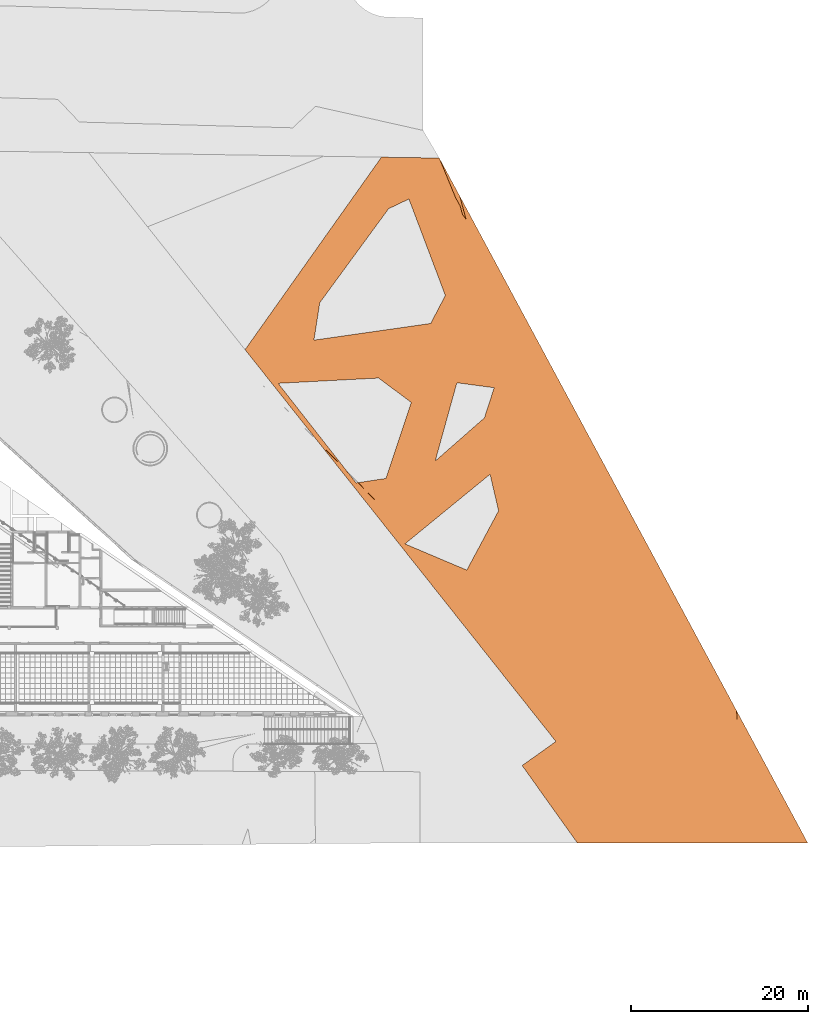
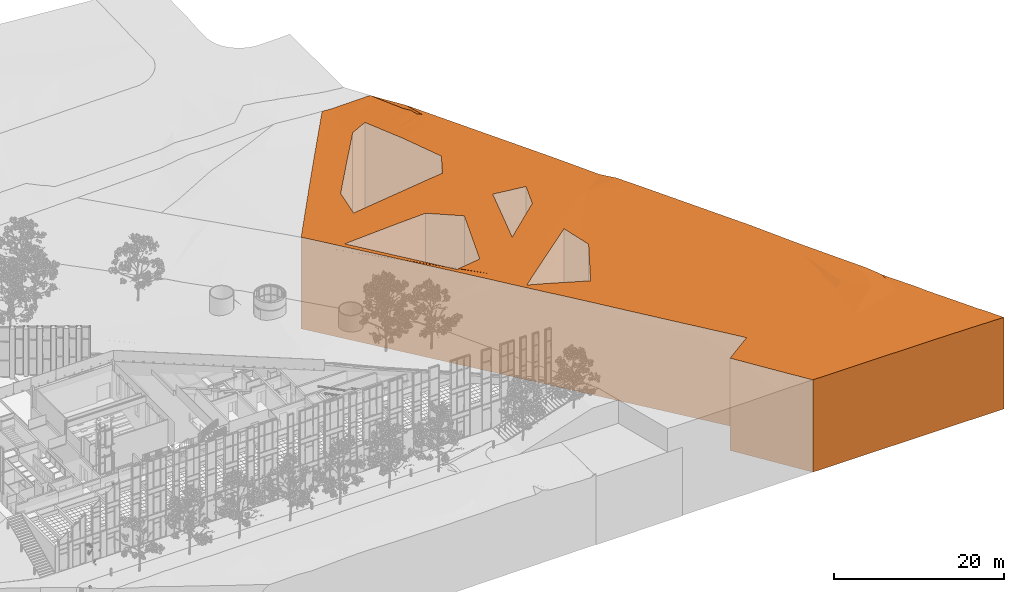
# One storey, part 243 of 246: 1 proxy.
"""IFC2X3 building model written with IfcOpenShell, lengths in millimetres."""

from ifc_helpers import new_model, entity, si_unit, converted_unit, derived_unit, money_unit, direction, frame, origin_with_axes, place, context, subcontext, project, spatial, faceted_brep, material, type_object, element, save


model = new_model("IFC2X3")

# Units and contexts
model_context = context("Model", 3, precision=0.01, world=origin_with_axes(), true_north=direction((0.0, 1.0)))
body_context = subcontext(model_context, "Body", "Model", "MODEL_VIEW")
ifc_project = project(units=[si_unit("LENGTHUNIT", "METRE", prefix="MILLI"), si_unit("AREAUNIT", "SQUARE_METRE"), si_unit("VOLUMEUNIT", "CUBIC_METRE"), converted_unit("PLANEANGLEUNIT", "DEGREE", entity("IfcPlaneAngleMeasure", 0.0174532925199), si_unit("PLANEANGLEUNIT", "RADIAN"), dimensions=[0, 0, 0, 0, 0, 0, 0]), si_unit("SOLIDANGLEUNIT", "STERADIAN"), money_unit("EUR"), converted_unit("TIMEUNIT", "Year", entity("IfcTimeMeasure", 31556926.0), si_unit("TIMEUNIT", "SECOND"), dimensions=[0, 0, 1, 0, 0, 0, 0]), si_unit("MASSUNIT", "GRAM", prefix="KILO"), si_unit("THERMODYNAMICTEMPERATUREUNIT", "DEGREE_CELSIUS"), si_unit("LUMINOUSINTENSITYUNIT", "LUMEN"), si_unit("ENERGYUNIT", "JOULE", prefix="MEGA"), derived_unit("THERMALCONDUCTANCEUNIT", [(si_unit("POWERUNIT", "WATT"), 1), (si_unit("LENGTHUNIT", "METRE"), -1), (si_unit("THERMODYNAMICTEMPERATUREUNIT", "KELVIN"), -1)]), derived_unit("SPECIFICHEATCAPACITYUNIT", [(si_unit("ENERGYUNIT", "JOULE"), 1), (si_unit("MASSUNIT", "GRAM", prefix="KILO"), -1), (si_unit("THERMODYNAMICTEMPERATUREUNIT", "KELVIN"), -1)]), derived_unit("MASSDENSITYUNIT", [(si_unit("MASSUNIT", "GRAM", prefix="KILO"), 1), (si_unit("VOLUMEUNIT", "CUBIC_METRE"), -1)])], contexts=[model_context])

# Site, building, storey
site_placement = place(None, origin_with_axes())
site = spatial("IfcSite", under=ifc_project, at=site_placement, Name="L.Koidula tn 11b", CompositionType="ELEMENT")
building_placement = place(site_placement, origin_with_axes())
building = spatial("IfcBuilding", under=site, at=building_placement, Name="Rakvere Riigigümnaasium", CompositionType="ELEMENT")
storey_placement = place(building_placement, origin_with_axes())
storey = spatial("IfcBuildingStorey", under=building, at=storey_placement, Name="1.korrus 0,00", CompositionType="ELEMENT", Elevation=0.0)

# Proxy
ifc_material = material(Name="Sillutiskivi-1")
building_element_proxy_type = type_object("IfcBuildingElementProxyType", Name="Sillutiskivi-1", PredefinedType="NOTDEFINED")
proxy_placement = place(storey_placement, frame((92366.3939692, -9321.98565616, -10000.0), z_axis=(0.0, 0.0, 1.0), x_axis=(1.0, 0.0, 0.0)))
element("IfcBuildingElementProxy", 1, at=proxy_placement, inside=storey, type_object=building_element_proxy_type, material=ifc_material, Name="Planeeritav väljak", context=body_context, shape_type="Brep", body=[
    faceted_brep([(15920.7747064, 41164.4104922, 13300.0), (18783.2583648, 49748.2448674, 13300.0), (18783.2583648, 49748.2448674, 0.0), (15920.7747064, 41164.4104922, 0.0), (20269.1649235, 35571.9690771, 13300.0), (24515.4192641, 39046.8699142, 13300.0), (25408.4256276, 41486.8922662, 13300.0), (24119.6955584, 44777.5870182, 13300.0), (23925.797146, 45272.6949639, 13300.0), (21480.3582089, 43125.9961694, 13300.0), (22841.5459326, 48041.2652899, 13300.0), (18888.0745643, 58136.2168836, 13300.0), (18492.3784722, 58318.4425073, 13300.0), (8468.59293327, 56883.3880709, 13300.0), (9822.32270436, 52224.4382351, 13300.0), (15077.8331233, 52499.750884, 13300.0), (13156.4988171, 40749.6523625, 13300.0), (13338.7281661, 40122.4981002, 13300.0), (19168.0540447, 35487.5758176, 13300.0), (15077.8331233, 52499.750884, 0.0), (37526.027676, 0.0, 0.0), (31298.6211441, 8733.51581743, 0.0), (35111.6999396, 11452.4199103, 0.0), (0.0, 55709.0679531, 0.0), (15406.9652078, 77456.1073541, 0.0), (21940.3990047, 77356.3244806, 0.0), (63550.3728724, 0.0, 0.0), (20969.1112619, 58673.0237545, 0.0), (22624.3737172, 61831.346194, 0.0), (18509.814681, 72724.3154969, 0.0), (16214.1973956, 71626.7548304, 0.0), (8444.00062993, 61014.2212685, 0.0), (7782.40465302, 56785.149982, 0.0), (23929.88202, 51971.2630927, 0.0), (21480.3582089, 43125.9961694, 0.0), (27038.3511295, 48005.012579, 0.0), (28140.1404809, 51406.2053522, 0.0), (3741.57183686, 51905.8949358, 0.0), (12544.3764033, 40657.8081481, 0.0), (25047.5577498, 30811.4322002, 0.0), (28636.4802294, 37508.618579, 0.0), (27677.3689706, 41634.4355193, 0.0), (18064.807099, 33768.0439621, 0.0), (12544.3764033, 40657.8081481, 13277.7007211), (12746.3636451, 40688.114765, 13280.0904646), (12779.5834158, 40693.0991337, 13295.2927448), (19220.5444476, 34713.835796, 13296.3466873), (18064.807099, 33768.0439621, 13281.4622466), (27677.3689706, 41634.4355193, 13253.1529359), (26642.3082022, 40787.3987566, 13263.1385572), (19882.6559671, 35255.6714207, 13290.6406482), (19432.2053283, 34887.0474109, 13300.0), (19334.5416279, 34807.1248139, 13300.0), (33902.6622969, 47201.750902, 13200.0), (24757.7568873, 46003.0206927, 13289.8176605), (27038.3511295, 48005.012579, 13261.5783108), (23929.88202, 51971.2630927, 13276.0697579), (27608.2659199, 51477.5881047, 13244.3285366), (30386.0484566, 56812.4800761, 13200.0), (18724.899707, 58351.7313909, 13297.4427405), (18934.1101104, 58381.6829812, 13297.2963122), (20969.1112619, 58673.0237545, 13274.7696108), (7782.40465302, 56785.149982, 13291.4466792), (11474.3338645, 42025.0918645, 13284.3042793), (3741.57183686, 51905.8949358, 13226.1230447), (8032.54214533, 58384.0854703, 13300.0), (6438.70189729, 63869.391268, 13300.0), (1912.060804, 53299.0051483, 13209.0731798), (8228.50373832, 45337.4256091, 13256.978706), (15551.9278109, 37815.4012714, 13300.0), (35617.1852729, 2677.02216562, 13272.5646203), (32030.4636621, 7707.15626086, 13300.0), (31298.6211441, 8733.51581743, 13300.0), (37526.027676, 0.0, 13294.6205032), (31807.6211491, 9096.45670353, 13300.0), (35111.6999396, 11452.4199103, 13263.6617882), (354.026608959, 55262.8340465, 13199.6382264), (0.0, 55709.0679531, 13173.0000895), (34096.2586129, 12732.3359919, 13271.6572792), (32845.8310405, 14308.4411953, 13274.7703783), (28928.0455873, 19246.625681, 13274.4718834), (25797.9428246, 23191.9731449, 13281.3378905), (23056.5478883, 26647.372657, 13300.0), (20561.5576266, 29792.1906541, 13300.0), (19460.2570484, 31180.3282881, 13279.6627785), (16060.009112, 35466.1810506, 13273.3417938), (14456.4424803, 37487.4014458, 13286.3792046), (8327.09612307, 45213.1545405, 13248.7293701), (667.048007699, 54868.2852808, 13200.0), (394.015103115, 55212.4304285, 13200.0), (14480.9341153, 76149.0079751, 12800.0), (15406.9652078, 77456.1073541, 12725.4210918), (12.5611781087, 55726.7981441, 13173.0007679), (166.613060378, 55944.2434559, 13182.4196115), (166.882778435, 55944.6241648, 13182.419628), (246.711949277, 56057.3035991, 13192.4527921), (454.152807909, 56350.1078253, 13200.0), (6098.58573115, 64317.2644666, 13293.0741582), (9168.00090935, 68649.7655087, 13200.0), (9370.16384417, 68935.1199085, 13192.0797251), (10434.8861756, 70437.9829435, 13100.0), (11500.8842035, 71942.6466331, 13007.8099496), (11876.9153626, 72473.4172503, 13000.0), (13031.0285238, 74102.4560682, 12900.0), (13865.0270103, 75279.6507786, 12827.7368533), (14159.5270961, 75695.3397143, 12800.0), (21940.2595585, 77356.3266103, 12800.0), (21940.3990047, 77356.3244806, 12800.0512487), (16753.5185154, 77435.5419114, 12669.4997277), (16771.4457366, 77435.2681152, 12670.797913), (21401.3061764, 77364.5578588, 12800.0), (55486.808195, 14990.822336, 13129.7008238), (55538.9640272, 14893.8604035, 13100.0), (55853.8610717, 14308.4411953, 13088.561535), (55951.5742996, 14126.7843602, 13085.0121548), (56359.8245076, 13367.8140311, 13096.0035193), (56505.9194599, 13096.2116366, 13100.0), (56970.5453754, 12232.4342838, 13117.0875248), (57010.7216337, 12157.743353, 13117.5943479), (57060.4279137, 12065.3353372, 13118.2573239), (57512.3076812, 11225.2541098, 13133.3180115), (57617.9516223, 11028.8534341, 13134.6236345), (57754.1313996, 10775.684156, 13136.3805377), (58486.6387548, 9413.89342697, 13089.5392731), (58675.3603371, 9063.04466162, 13094.7188471), (58699.9121648, 9017.40081769, 13093.8073959), (58845.4901975, 8746.75941886, 13088.640217), (58847.3747991, 8743.25579116, 13088.5722315), (58907.4665615, 8631.54031914, 13086.4850682), (60426.9436926, 5806.70879281, 13117.8294647), (61617.100459, 3594.1105994, 13114.1415256), (62608.097357, 1751.7667941, 13172.1594937), (63550.3728724, 0.0, 13175.7681719), (22293.0793543, 76700.6630364, 12830.7671762), (22462.4514884, 76385.7864684, 12855.7826799), (22692.5047594, 75958.0987335, 12900.0), (23212.7833971, 74990.8584452, 13000.0), (23586.203316, 74296.6404554, 13071.7673266), (23733.1110556, 74023.5270232, 13100.0), (24233.7629321, 73092.7744798, 13196.2150867), (24253.2943195, 73056.4640427, 13200.0), (32859.1667419, 57057.4475169, 13200.0), (33963.0380946, 55005.2609229, 13200.0), (36992.1789231, 49373.8418412, 13122.9689918), (37232.2364037, 48927.5554671, 13200.0), (38088.2118939, 47336.2274366, 13474.6702788), (39293.3420457, 45095.7925023, 13495.1692428), (39296.5995978, 45089.7364483, 13495.6764031), (39355.0555171, 44981.0621414, 13496.2189736), (39644.7609375, 44442.4762108, 13500.0), (46941.8686806, 30876.5596317, 13500.0), (49295.0601403, 26501.7853841, 13375.8964501), (49552.452268, 26023.2724917, 13364.0023533), (49877.8777328, 25418.2800941, 13352.4914968), (49938.7006832, 25305.2052843, 13349.746502), (50000.0964924, 25191.0654832, 13347.5834014), (50052.1017984, 25094.3833911, 13346.3205448), (50085.0383436, 25033.1516757, 13345.7884278), (50109.9287185, 24986.8784451, 13345.4833093), (50431.2366724, 24389.5408351, 13337.6503887), (51865.7713601, 21722.6242171, 13323.9781573), (52061.5227469, 21358.7064737, 13320.4819949), (52220.4924562, 21063.1688593, 13318.4018667), (52945.3377183, 19715.622584, 13311.4089836), (53358.6013846, 18947.3318285, 13307.3420235), (53808.0363369, 18111.7957112, 13304.9353088), (53867.1250823, 18001.9449294, 13304.3597608), (53928.2401952, 17888.3269655, 13304.0333013), (53959.2502284, 17830.6767926, 13303.9675783), (53991.9531445, 17769.8794127, 13303.9680147), (54223.717602, 17339.0104428, 13303.4764809), (54468.4441419, 16884.0439078, 13303.479755), (55074.8471277, 15756.6914542, 13200.0), (53259.0994859, 0.0, 13293.221805), (38247.0175139, 0.0, 13293.466507), (62779.9040855, 0.0, 13196.177261), (62721.569189, 0.0, 13193.8189514), (62661.7700525, 0.0, 13200.0), (59145.8984065, 0.0, 13249.4928133), (54692.1229235, 0.0, 13284.6593419), (54687.1030029, 0.0, 13284.7126672), (53885.1575461, 0.0, 13292.597215), (22624.3737172, 61831.346194, 13229.6136489), (19176.9295314, 70958.1817463, 13000.0), (18509.814681, 72724.3154969, 12905.6294669), (20590.7691506, 67215.1532894, 13200.0), (19883.849337, 69086.6675162, 13100.0), (16214.1973956, 71626.7548304, 12913.3669328), (9501.69732299, 62458.8232511, 13300.0), (8444.00062993, 61014.2212685, 13300.0), (16178.9772397, 71578.6511468, 12914.9343826), (14870.6078211, 69791.6804227, 13000.0), (13688.9169334, 68177.7271937, 13100.0), (12507.2260515, 66563.7739598, 13200.0), (28140.1404809, 51406.2053522, 13239.5885536), (11610.2492093, 41851.4213506, 13272.0280896), (26399.7169111, 33334.6580343, 13211.6158739), (27520.0541571, 35425.2875718, 13200.0), (28636.4802294, 37508.618579, 13200.0), (25047.5577498, 30811.4322002, 13241.5970651), (26311.1932214, 33169.4664894, 13206.4442024), (28061.2759521, 39982.9796395, 13220.7478147), (28417.660269, 38449.9182366, 13200.0), (28236.8903002, 39227.5379266, 13209.5625216), (20350.0289171, 32800.443364, 13300.0), (19320.7841425, 33236.2425725, 13289.3700414), (19764.9031506, 33048.1952615, 13300.0), (28755.7785308, 39589.2630443, 13200.0), (406.542851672, 55729.9543852, 13200.0), (41900.9541045, 9340.70706675, 13200.0), (371.601518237, 55274.8187388, 13200.0), (38732.1990791, 14308.4411953, 13200.0), (26803.2186859, 33009.7931594, 13200.0), (15913.2837457, 73951.3285686, 12800.0), (9724.53594028, 68526.9275392, 13200.0), (10877.4717137, 70161.1671454, 13100.0), (12030.4074882, 71795.4067507, 13000.0), (13183.3432624, 73429.6463616, 12900.0), (14336.2790371, 75063.8859696, 12800.0), (22279.2886774, 76531.9010873, 12800.0), (55471.6625819, 14308.4411953, 13142.2250126), (55548.5125336, 13885.2781817, 13100.0), (56281.6484834, 13279.1948601, 13100.0), (55401.7947749, 11160.5677114, 13200.0), (55684.6449045, 10773.2906113, 13200.0), (56015.3337337, 10328.155748, 13200.0), (56405.1092772, 9811.64258799, 13200.0), (56869.0202578, 9205.66378134, 13200.0), (57427.6688354, 8485.45918651, 13200.0), (60700.3432958, 3759.14600075, 13200.0), (60708.3917484, 3743.72084713, 13200.0), (23039.727918, 74682.1086241, 12900.0), (23800.1671584, 72832.3161581, 13000.0), (24296.0203699, 71954.9573093, 13100.0), (24791.8735814, 71077.5984615, 13200.0), (24262.5478068, 73022.7559466, 13200.0), (24968.2642672, 70429.3093843, 13200.0), (25321.0456294, 69132.7312294, 13200.0), (34274.9283747, 47352.8707933, 13200.0), (37755.422978, 38886.6492193, 13200.0), (41745.0119783, 39635.1706171, 13500.0), (53607.9635588, 14932.1252382, 13500.0), (53450.2216489, 17149.6097284, 13500.0), (53355.8534162, 17325.0374918, 13500.0), (53267.0133972, 17491.771689, 13500.0), (53094.4940868, 17820.28504, 13500.0), (52932.0632525, 18135.8657614, 13500.0), (49625.0824628, 24555.4175783, 13500.0), (49575.833767, 24652.39075, 13500.0), (49511.9066499, 24780.6274695, 13500.0), (49415.2163705, 24982.3988846, 13500.0), (49308.8462584, 25216.9977601, 13500.0), (49211.8256038, 25442.622697, 13500.0), (42306.8326246, 38268.5550599, 13500.0), (44692.2448878, 32536.6258784, 13500.0), (44918.1553958, 31987.1038604, 13500.0), (47769.8697852, 25868.9173529, 13500.0), (49208.4931625, 23160.0142862, 13500.0), (50422.7150954, 15676.7249809, 13500.0), (52967.9096669, 12994.3125763, 13500.0), (55177.8691613, 14308.4411953, 13200.0), (48543.8437365, 9329.87891918, 13200.0), (15652.6474735, 71687.5826716, 12900.0), (49394.1336876, 15058.647084, 13200.0), (41235.9175836, 30420.4276435, 13200.0), (40197.8611985, 32945.4754794, 13200.0), (24560.6063939, 70982.5236933, 13100.0)], [[[0, 1, 2, 3]], [[4, 5, 6, 7, 8, 9, 10, 11, 12, 13, 14, 15, 1, 0, 16, 17, 18]], [[1, 15, 19, 2]], [[20, 21, 22, 23, 24, 25, 26], [27, 28, 29, 30, 31, 32], [33, 34, 35, 36], [3, 2, 19, 37, 38], [39, 40, 41, 42]], [[16, 0, 3, 38, 43, 44, 45]], [[46, 47, 42, 41, 48, 49, 5, 4, 50, 51, 52]], [[5, 49, 6]], [[6, 53, 7]], [[54, 8, 7]], [[54, 55, 35, 34, 9, 8]], [[10, 9, 34, 33, 56]], [[56, 57, 58, 11, 10]], [[59, 12, 11]], [[60, 61, 27, 32, 62, 13, 12, 59]], [[63, 64, 14, 13, 62, 65, 66, 67, 68]], [[14, 64, 37, 19, 15]], [[16, 45, 17]], [[17, 69, 18]], [[50, 4, 18]], [[70, 71, 72, 21, 20, 73]], [[72, 74, 75, 22, 21]], [[76, 77, 23, 22, 75, 78, 79, 80, 81, 82, 83, 84, 85, 86, 87, 68, 67, 88, 89]], [[90, 91, 24, 23, 77, 92, 93, 94, 95, 96, 97, 98, 99, 100, 101, 102, 103, 104, 105]], [[106, 107, 25, 24, 91, 108, 109, 110]], [[111, 112, 113, 114, 115, 116, 117, 118, 119, 120, 121, 122, 123, 124, 125, 126, 127, 128, 129, 130, 131, 132, 26, 25, 107, 133, 134, 135, 136, 137, 138, 139, 140, 141, 142, 143, 144, 145, 146, 147, 148, 149, 150, 151, 152, 153, 154, 155, 156, 157, 158, 159, 160, 161, 162, 163, 164, 165, 166, 167, 168, 169, 170, 171, 172]], [[173, 174, 73, 20, 26, 132, 175, 176, 177, 178, 179, 180, 181]], [[61, 182, 28, 27]], [[183, 184, 29, 28, 182, 185, 186]], [[184, 187, 30, 29]], [[188, 189, 31, 30, 187, 190, 191, 192, 193]], [[65, 62, 32, 31, 189]], [[55, 194, 36, 35]], [[57, 56, 33, 36, 194]], [[195, 43, 38, 37, 64, 63]], [[196, 197, 198, 40, 39, 199, 200]], [[201, 48, 41, 40, 198, 202, 203]], [[204, 199, 39, 42, 47, 205, 206]], [[87, 86, 69, 44, 43, 195]], [[45, 44, 69, 17]], [[85, 84, 205, 47, 46, 18]], [[48, 201, 207, 53, 6, 49]], [[51, 50, 18]], [[52, 51, 18]], [[46, 52, 18]], [[57, 194, 55, 54, 7, 53, 58]], [[185, 182, 61, 60, 11, 58]], [[60, 59, 11]], [[189, 188, 66, 65]], [[88, 67, 66, 208]], [[195, 63, 68, 87]], [[86, 85, 18, 69]], [[74, 71, 70, 209, 78, 75]], [[74, 72, 71]], [[70, 73, 174, 209]], [[77, 76, 210, 92]], [[211, 79, 78, 209]], [[79, 211, 80]], [[81, 80, 211, 212]], [[200, 199, 204, 82, 81, 212]], [[83, 82, 204, 206]], [[84, 83, 206, 205]], [[89, 88, 208, 210]], [[76, 89, 210]], [[108, 91, 90, 213]], [[93, 92, 210, 208]], [[94, 93, 208]], [[95, 94, 208]], [[96, 95, 208]], [[97, 96, 208, 66]], [[98, 97, 66, 214]], [[99, 98, 214]], [[100, 99, 214, 215]], [[101, 100, 215, 216]], [[102, 101, 216]], [[103, 102, 216, 217]], [[104, 103, 217, 218]], [[105, 104, 218]], [[90, 105, 218, 213]], [[133, 107, 106, 219]], [[109, 108, 213]], [[110, 109, 213]], [[106, 110, 213, 219]], [[112, 111, 220, 221]], [[113, 112, 221, 114]], [[222, 115, 114, 221]], [[222, 116, 115]], [[223, 117, 116, 222]], [[224, 118, 117, 223]], [[225, 119, 118, 224]], [[225, 120, 119]], [[226, 121, 120, 225]], [[227, 122, 121, 226]], [[227, 123, 122]], [[228, 124, 123, 227]], [[228, 125, 124]], [[228, 126, 125]], [[228, 127, 126]], [[228, 128, 127]], [[229, 129, 128, 228]], [[230, 177, 176, 130, 129, 229]], [[130, 176, 175, 131]], [[131, 175, 132]], [[134, 133, 219]], [[135, 134, 219, 231]], [[136, 135, 231, 232]], [[137, 136, 232]], [[138, 137, 232, 233]], [[139, 138, 233, 234, 235]], [[140, 139, 235]], [[141, 140, 235, 234, 236, 237, 185, 58]], [[142, 141, 58, 238]], [[143, 142, 238]], [[144, 143, 238]], [[145, 144, 238]], [[146, 145, 238]], [[147, 146, 238, 53]], [[148, 147, 53, 239]], [[149, 148, 239, 240]], [[241, 242, 243, 244, 245, 246, 247, 248, 249, 250, 251, 252, 150, 149, 240, 253, 254, 255, 256, 257, 258, 259]], [[151, 150, 252]], [[152, 151, 252]], [[153, 152, 252]], [[154, 153, 252, 251]], [[155, 154, 251, 250]], [[156, 155, 250, 249]], [[157, 156, 249, 248]], [[158, 157, 248, 247]], [[159, 158, 247]], [[160, 159, 247, 246]], [[161, 160, 246]], [[162, 161, 246]], [[163, 162, 246]], [[164, 163, 246]], [[165, 164, 246]], [[166, 165, 246, 245]], [[167, 166, 245, 244]], [[168, 167, 244, 243]], [[169, 168, 243, 242]], [[170, 169, 242]], [[171, 170, 242]], [[260, 172, 171, 242, 241, 223]], [[111, 172, 260, 220]], [[209, 174, 173, 261]], [[230, 178, 177]], [[230, 179, 178]], [[229, 180, 179, 230]], [[228, 181, 180, 229]], [[261, 173, 181, 228]], [[184, 183, 232, 231, 262, 190, 187]], [[185, 237, 186]], [[233, 183, 186]], [[191, 190, 262]], [[191, 216, 215, 192]], [[193, 192, 215, 214]], [[188, 193, 66]], [[197, 196, 212]], [[263, 264, 265, 239, 53, 207, 202, 198, 197, 212, 211, 209, 261]], [[196, 200, 212]], [[203, 202, 207]], [[201, 203, 207]], [[238, 58, 53]], [[66, 193, 214]], [[191, 262, 217, 216]], [[218, 217, 262, 213]], [[262, 231, 219, 213]], [[220, 260, 221]], [[223, 222, 221]], [[225, 224, 223, 261, 228, 227, 226]], [[233, 232, 183]], [[233, 266, 236, 234]], [[186, 237, 236]], [[265, 253, 240, 239]], [[253, 265, 254]], [[255, 254, 265, 264]], [[255, 264, 256]], [[264, 263, 257, 256]], [[258, 257, 263]], [[258, 263, 259]], [[241, 259, 223]], [[260, 223, 221]], [[186, 266, 233]], [[263, 261, 259]], [[259, 261, 223]], [[236, 266, 186]]]),
])

save(model, "model.ifc")
